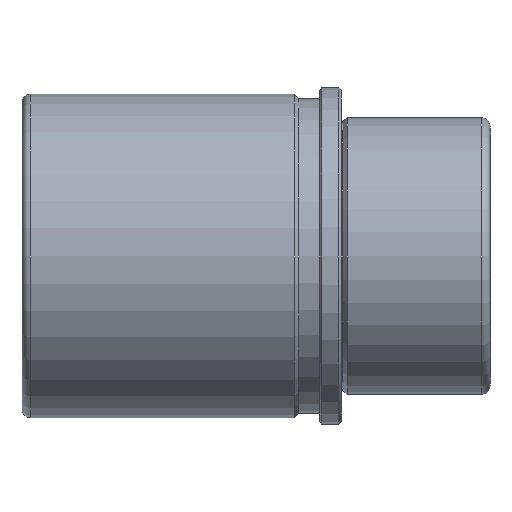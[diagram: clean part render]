
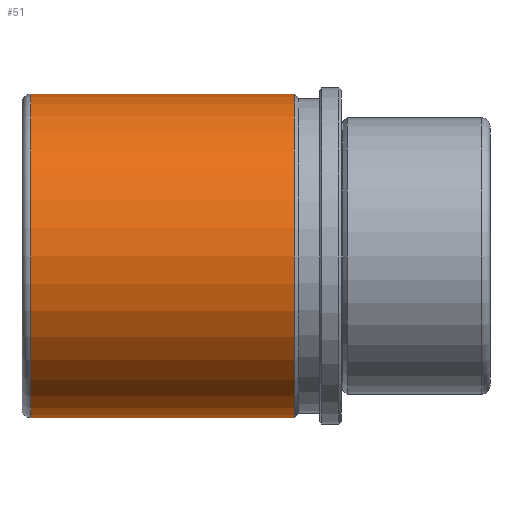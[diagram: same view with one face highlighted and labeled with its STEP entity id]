
A CAD part, front view. The second image highlights one B-rep face of the part: STEP entity #51.
In plain terms, the highlighted cylindrical face has radius 38 mm (diameter 76 mm), a full revolution.
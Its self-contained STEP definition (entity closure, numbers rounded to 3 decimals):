
#51 = ADVANCED_FACE( '', ( #116, #117, #118 ), #119, .T. );
#116 = FACE_OUTER_BOUND( '', #209, .T. );
#117 = FACE_BOUND( '', #210, .T. );
#118 = FACE_OUTER_BOUND( '', #211, .T. );
#119 = CYLINDRICAL_SURFACE( '', #212, 38. );
#209 = EDGE_LOOP( '', ( #302 ) );
#210 = EDGE_LOOP( '', ( #303 ) );
#211 = EDGE_LOOP( '', ( #304 ) );
#212 = AXIS2_PLACEMENT_3D( '', #305, #306, #307 );
#302 = ORIENTED_EDGE( '', *, *, #416, .T. );
#303 = ORIENTED_EDGE( '', *, *, #421, .T. );
#304 = ORIENTED_EDGE( '', *, *, #418, .F. );
#305 = CARTESIAN_POINT( '', ( 35., 0., 0. ) );
#306 = DIRECTION( '', ( -1., 0., 0. ) );
#307 = DIRECTION( '', ( 0., 0., -1. ) );
#416 = EDGE_CURVE( '', #462, #462, #463, .T. );
#418 = EDGE_CURVE( '', #465, #465, #466, .T. );
#421 = EDGE_CURVE( '', #470, #470, #471, .T. );
#462 = VERTEX_POINT( '', #527 );
#463 = CIRCLE( '', #528, 38. );
#465 = VERTEX_POINT( '', #530 );
#466 = CIRCLE( '', #531, 38. );
#470 = VERTEX_POINT( '', #535 );
#471 = B_SPLINE_CURVE_WITH_KNOTS( '', 3, ( #536, #537, #538, #539, #540, #541, #542, #543, #544, #545, #546, #547, #548, #549, #550, #551, #552, #553, #554, #555, #556, #557, #558, #559, #560, #561, #562, #563, #564, #565, #566, #567, #568, #569, #570, #571, #572, #573, #574, #575, #576, #577, #578, #579, #580, #581, #582, #583, #584, #585, #586, #587, #588, #589, #590, #591, #592, #593, #594, #595, #596, #597, #598, #599, #600, #601 ), .UNSPECIFIED., .T., .F., ( 2, 2, 2, 2, 2, 2, 2, 2, 2, 2, 2, 2, 2, 2, 2, 2, 2, 2, 2, 2, 2, 2, 2, 2, 2, 2, 2, 2, 2, 2, 2, 2, 2, 2, 2 ), ( -0.001, 0., 0.001, 0.002, 0.002, 0.003, 0.004, 0.005, 0.006, 0.007, 0.007, 0.008, 0.009, 0.01, 0.011, 0.011, 0.012, 0.013, 0.014, 0.015, 0.016, 0.016, 0.017, 0.018, 0.019, 0.02, 0.02, 0.021, 0.022, 0.023, 0.024, 0.025, 0.025, 0.026, 0.027 ), .UNSPECIFIED. );
#527 = CARTESIAN_POINT( '', ( -73., 0., -38. ) );
#528 = AXIS2_PLACEMENT_3D( '', #723, #724, #725 );
#530 = CARTESIAN_POINT( '', ( -11., 0., -38. ) );
#531 = AXIS2_PLACEMENT_3D( '', #726, #727, #728 );
#535 = CARTESIAN_POINT( '', ( -18., 37.769, -4.188 ) );
#536 = CARTESIAN_POINT( '', ( -18.277, 37.769, -4.188 ) );
#537 = CARTESIAN_POINT( '', ( -17.723, 37.769, -4.188 ) );
#538 = CARTESIAN_POINT( '', ( -17.451, 37.772, -4.161 ) );
#539 = CARTESIAN_POINT( '', ( -16.915, 37.783, -4.054 ) );
#540 = CARTESIAN_POINT( '', ( -16.649, 37.792, -3.974 ) );
#541 = CARTESIAN_POINT( '', ( -16.142, 37.813, -3.763 ) );
#542 = CARTESIAN_POINT( '', ( -15.902, 37.826, -3.635 ) );
#543 = CARTESIAN_POINT( '', ( -15.447, 37.854, -3.331 ) );
#544 = CARTESIAN_POINT( '', ( -15.231, 37.869, -3.154 ) );
#545 = CARTESIAN_POINT( '', ( -14.845, 37.9, -2.768 ) );
#546 = CARTESIAN_POINT( '', ( -14.672, 37.915, -2.557 ) );
#547 = CARTESIAN_POINT( '', ( -14.366, 37.943, -2.1 ) );
#548 = CARTESIAN_POINT( '', ( -14.236, 37.955, -1.856 ) );
#549 = CARTESIAN_POINT( '', ( -14.027, 37.977, -1.352 ) );
#550 = CARTESIAN_POINT( '', ( -13.946, 37.985, -1.088 ) );
#551 = CARTESIAN_POINT( '', ( -13.839, 37.997, -0.548 ) );
#552 = CARTESIAN_POINT( '', ( -13.812, 38., -0.276 ) );
#553 = CARTESIAN_POINT( '', ( -13.812, 38., 0.271 ) );
#554 = CARTESIAN_POINT( '', ( -13.839, 37.997, 0.549 ) );
#555 = CARTESIAN_POINT( '', ( -13.946, 37.985, 1.086 ) );
#556 = CARTESIAN_POINT( '', ( -14.025, 37.977, 1.347 ) );
#557 = CARTESIAN_POINT( '', ( -14.235, 37.956, 1.854 ) );
#558 = CARTESIAN_POINT( '', ( -14.366, 37.943, 2.099 ) );
#559 = CARTESIAN_POINT( '', ( -14.669, 37.915, 2.553 ) );
#560 = CARTESIAN_POINT( '', ( -14.842, 37.9, 2.765 ) );
#561 = CARTESIAN_POINT( '', ( -15.233, 37.869, 3.156 ) );
#562 = CARTESIAN_POINT( '', ( -15.444, 37.854, 3.329 ) );
#563 = CARTESIAN_POINT( '', ( -15.897, 37.826, 3.632 ) );
#564 = CARTESIAN_POINT( '', ( -16.142, 37.813, 3.763 ) );
#565 = CARTESIAN_POINT( '', ( -16.649, 37.792, 3.974 ) );
#566 = CARTESIAN_POINT( '', ( -16.91, 37.783, 4.053 ) );
#567 = CARTESIAN_POINT( '', ( -17.447, 37.772, 4.16 ) );
#568 = CARTESIAN_POINT( '', ( -17.725, 37.769, 4.188 ) );
#569 = CARTESIAN_POINT( '', ( -18.272, 37.769, 4.188 ) );
#570 = CARTESIAN_POINT( '', ( -18.544, 37.771, 4.162 ) );
#571 = CARTESIAN_POINT( '', ( -19.084, 37.783, 4.055 ) );
#572 = CARTESIAN_POINT( '', ( -19.349, 37.792, 3.974 ) );
#573 = CARTESIAN_POINT( '', ( -19.853, 37.813, 3.766 ) );
#574 = CARTESIAN_POINT( '', ( -20.097, 37.826, 3.636 ) );
#575 = CARTESIAN_POINT( '', ( -20.554, 37.854, 3.33 ) );
#576 = CARTESIAN_POINT( '', ( -20.765, 37.869, 3.157 ) );
#577 = CARTESIAN_POINT( '', ( -21.152, 37.899, 2.771 ) );
#578 = CARTESIAN_POINT( '', ( -21.329, 37.915, 2.556 ) );
#579 = CARTESIAN_POINT( '', ( -21.633, 37.943, 2.101 ) );
#580 = CARTESIAN_POINT( '', ( -21.762, 37.955, 1.861 ) );
#581 = CARTESIAN_POINT( '', ( -21.972, 37.977, 1.354 ) );
#582 = CARTESIAN_POINT( '', ( -22.053, 37.985, 1.088 ) );
#583 = CARTESIAN_POINT( '', ( -22.16, 37.997, 0.553 ) );
#584 = CARTESIAN_POINT( '', ( -22.188, 38., 0.281 ) );
#585 = CARTESIAN_POINT( '', ( -22.188, 38., -0.273 ) );
#586 = CARTESIAN_POINT( '', ( -22.161, 37.997, -0.545 ) );
#587 = CARTESIAN_POINT( '', ( -22.055, 37.986, -1.081 ) );
#588 = CARTESIAN_POINT( '', ( -21.975, 37.977, -1.347 ) );
#589 = CARTESIAN_POINT( '', ( -21.765, 37.956, -1.854 ) );
#590 = CARTESIAN_POINT( '', ( -21.637, 37.943, -2.095 ) );
#591 = CARTESIAN_POINT( '', ( -21.333, 37.915, -2.55 ) );
#592 = CARTESIAN_POINT( '', ( -21.157, 37.9, -2.766 ) );
#593 = CARTESIAN_POINT( '', ( -20.771, 37.87, -3.152 ) );
#594 = CARTESIAN_POINT( '', ( -20.56, 37.855, -3.326 ) );
#595 = CARTESIAN_POINT( '', ( -20.103, 37.826, -3.632 ) );
#596 = CARTESIAN_POINT( '', ( -19.859, 37.813, -3.762 ) );
#597 = CARTESIAN_POINT( '', ( -19.356, 37.792, -3.972 ) );
#598 = CARTESIAN_POINT( '', ( -19.092, 37.783, -4.052 ) );
#599 = CARTESIAN_POINT( '', ( -18.551, 37.772, -4.161 ) );
#600 = CARTESIAN_POINT( '', ( -18.277, 37.769, -4.188 ) );
#601 = CARTESIAN_POINT( '', ( -17.723, 37.769, -4.188 ) );
#723 = CARTESIAN_POINT( '', ( -73., 0., 0. ) );
#724 = DIRECTION( '', ( 1., 0., 0. ) );
#725 = DIRECTION( '', ( 0., 0., -1. ) );
#726 = CARTESIAN_POINT( '', ( -11., 0., 0. ) );
#727 = DIRECTION( '', ( 1., 0., 0. ) );
#728 = DIRECTION( '', ( 0., 0., -1. ) );
